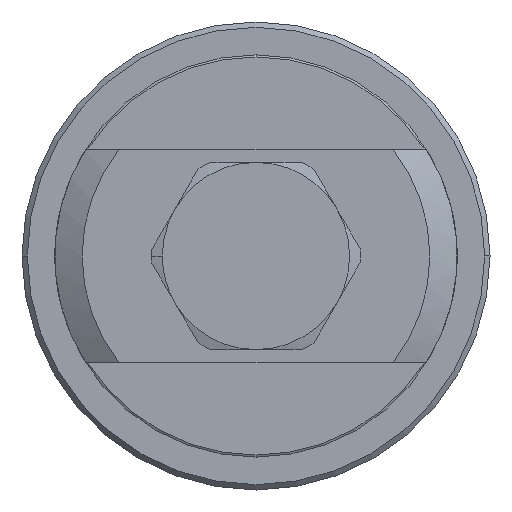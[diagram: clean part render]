
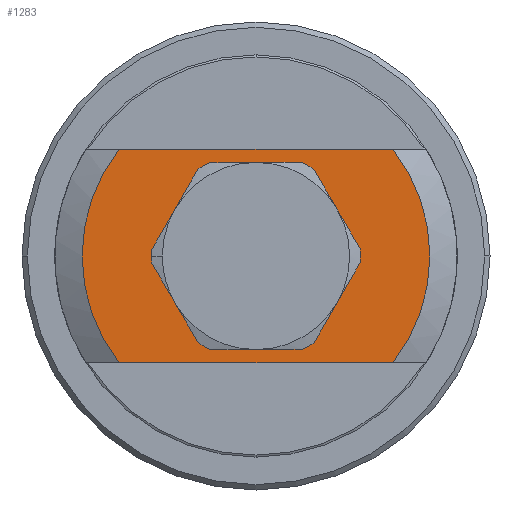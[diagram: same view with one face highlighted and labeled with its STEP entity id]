
A CAD part, front view. The second image highlights one B-rep face of the part: STEP entity #1283.
In plain terms, the highlighted planar face has unit normal (0, -1, 0).
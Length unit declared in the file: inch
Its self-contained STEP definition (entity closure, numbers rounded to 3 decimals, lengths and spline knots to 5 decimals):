
#260 = CARTESIAN_POINT ( 'NONE',  ( 0.64043, -1.146, -0.5 ) ) ;
#513 = CARTESIAN_POINT ( 'NONE',  ( 0.64043, -1.146, 0.5 ) ) ;
#661 = EDGE_CURVE ( 'NONE', #956, #955, #4366, .T. ) ;
#955 = VERTEX_POINT ( 'NONE', #4042 ) ;
#956 = VERTEX_POINT ( 'NONE', #4041 ) ;
#988 = DIRECTION ( 'NONE',  ( 0., 1., 0. ) ) ;
#995 = DIRECTION ( 'NONE',  ( 0., 0., 1. ) ) ;
#999 = CARTESIAN_POINT ( 'NONE',  ( 0., -1.146, 0. ) ) ;
#1219 = VERTEX_POINT ( 'NONE', #3988 ) ;
#1283 = ADVANCED_FACE ( 'NONE', ( #3603, #3607 ), #3602, .T. ) ;
#1440 = DIRECTION ( 'NONE',  ( 0., 1., 0. ) ) ;
#1476 = DIRECTION ( 'NONE',  ( 0., 0., 1. ) ) ;
#1478 = CARTESIAN_POINT ( 'NONE',  ( 0., -1.146, 0. ) ) ;
#2195 = VERTEX_POINT ( 'NONE', #260 ) ;
#2229 = VERTEX_POINT ( 'NONE', #513 ) ;
#2399 = ORIENTED_EDGE ( 'NONE', *, *, #5401, .T. ) ;
#2400 = ORIENTED_EDGE ( 'NONE', *, *, #661, .T. ) ;
#2401 = ORIENTED_EDGE ( 'NONE', *, *, #5481, .F. ) ;
#2402 = ORIENTED_EDGE ( 'NONE', *, *, #5297, .F. ) ;
#2403 = ORIENTED_EDGE ( 'NONE', *, *, #5399, .T. ) ;
#2404 = ORIENTED_EDGE ( 'NONE', *, *, #5411, .F. ) ;
#3599 = DIRECTION ( 'NONE',  ( 0., 0., -1. ) ) ;
#3600 = DIRECTION ( 'NONE',  ( 0., -1., 0. ) ) ;
#3602 = PLANE ( 'NONE',  #4130 ) ;
#3603 = FACE_OUTER_BOUND ( 'NONE', #4837, .T. ) ;
#3607 = FACE_BOUND ( 'NONE', #4781, .T. ) ;
#3608 = CARTESIAN_POINT ( 'NONE',  ( 0., -1.146, 0. ) ) ;
#3988 = CARTESIAN_POINT ( 'NONE',  ( -0.64043, -1.146, -0.5 ) ) ;
#4041 = CARTESIAN_POINT ( 'NONE',  ( 0., -1.146, 0.38375 ) ) ;
#4042 = CARTESIAN_POINT ( 'NONE',  ( 0., -1.146, -0.38375 ) ) ;
#4130 = AXIS2_PLACEMENT_3D ( 'NONE', #3608, #3600, #3599 ) ;
#4366 = CIRCLE ( 'NONE', #4386, 0.38375 ) ;
#4386 = AXIS2_PLACEMENT_3D ( 'NONE', #999, #988, #995 ) ;
#4781 = EDGE_LOOP ( 'NONE', ( #2400, #2399 ) ) ;
#4837 = EDGE_LOOP ( 'NONE', ( #2404, #2403, #2402, #2401 ) ) ;
#5297 = EDGE_CURVE ( 'NONE', #1219, #7614, #6126, .T. ) ;
#5399 = EDGE_CURVE ( 'NONE', #2229, #7614, #6754, .T. ) ;
#5401 = EDGE_CURVE ( 'NONE', #955, #956, #6263, .T. ) ;
#5411 = EDGE_CURVE ( 'NONE', #2229, #2195, #6281, .T. ) ;
#5481 = EDGE_CURVE ( 'NONE', #2195, #1219, #6417, .T. ) ;
#6126 = CIRCLE ( 'NONE', #6128, 0.8125 ) ;
#6128 = AXIS2_PLACEMENT_3D ( 'NONE', #1478, #1440, #1476 ) ;
#6261 = VECTOR ( 'NONE', #6738, 39.37008 ) ;
#6263 = CIRCLE ( 'NONE', #6266, 0.38375 ) ;
#6266 = AXIS2_PLACEMENT_3D ( 'NONE', #6734, #6733, #6732 ) ;
#6281 = CIRCLE ( 'NONE', #6284, 0.8125 ) ;
#6284 = AXIS2_PLACEMENT_3D ( 'NONE', #6700, #6699, #6698 ) ;
#6364 = VECTOR ( 'NONE', #6841, 39.37008 ) ;
#6417 = LINE ( 'NONE', #7277, #6364 ) ;
#6698 = DIRECTION ( 'NONE',  ( -1., 0., 0. ) ) ;
#6699 = DIRECTION ( 'NONE',  ( 0., 1., 0. ) ) ;
#6700 = CARTESIAN_POINT ( 'NONE',  ( 0., -1.146, 0. ) ) ;
#6732 = DIRECTION ( 'NONE',  ( 0., 0., 1. ) ) ;
#6733 = DIRECTION ( 'NONE',  ( 0., 1., 0. ) ) ;
#6734 = CARTESIAN_POINT ( 'NONE',  ( 0., -1.146, 0. ) ) ;
#6738 = DIRECTION ( 'NONE',  ( -1., 0., 0. ) ) ;
#6753 = CARTESIAN_POINT ( 'NONE',  ( 0.96995, -1.146, 0.5 ) ) ;
#6754 = LINE ( 'NONE', #6753, #6261 ) ;
#6841 = DIRECTION ( 'NONE',  ( -1., 0., 0. ) ) ;
#7191 = CARTESIAN_POINT ( 'NONE',  ( -0.64043, -1.146, 0.5 ) ) ;
#7277 = CARTESIAN_POINT ( 'NONE',  ( 0.96995, -1.146, -0.5 ) ) ;
#7614 = VERTEX_POINT ( 'NONE', #7191 ) ;
